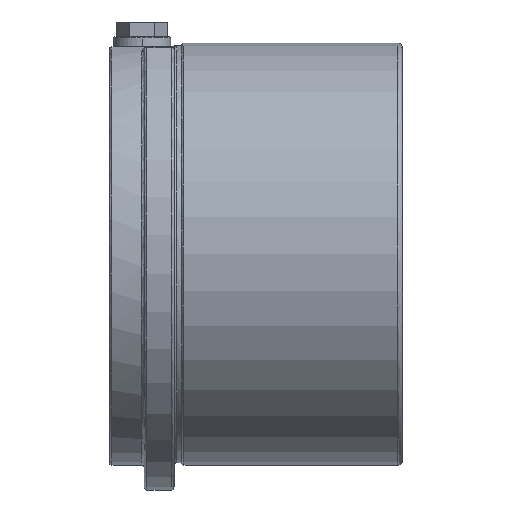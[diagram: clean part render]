
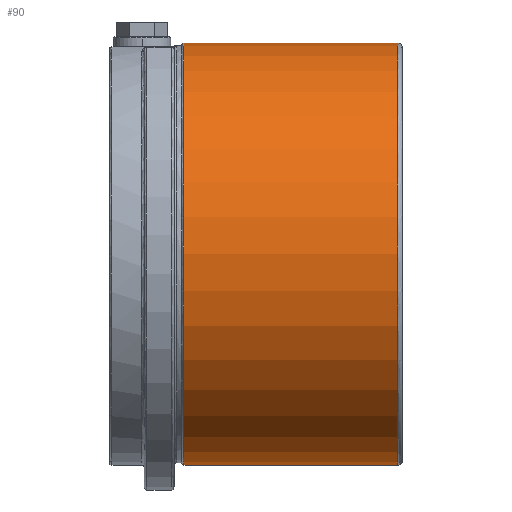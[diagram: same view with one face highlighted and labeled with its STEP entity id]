
A CAD part, left-side view. The second image highlights one B-rep face of the part: STEP entity #90.
In plain terms, the highlighted face is a revolution surface.
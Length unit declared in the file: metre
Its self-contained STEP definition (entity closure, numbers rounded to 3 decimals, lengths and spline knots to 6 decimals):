
#90 = ADVANCED_FACE( '', ( #192 ), #193, .F. );
#192 = FACE_OUTER_BOUND( '', #442, .T. );
#193 = SURFACE_OF_REVOLUTION( '', #443, #444 );
#442 = EDGE_LOOP( '', ( #4558, #4559, #4560, #4561 ) );
#443 = B_SPLINE_CURVE_WITH_KNOTS( '', 1, ( #4562, #4563 ), .UNSPECIFIED., .F., .F., ( 2, 2 ), ( -10000., 10000. ), .UNSPECIFIED. );
#444 = AXIS1_PLACEMENT( '', #4564, #4565 );
#4558 = ORIENTED_EDGE( '', *, *, #5241, .F. );
#4559 = ORIENTED_EDGE( '', *, *, #5242, .T. );
#4560 = ORIENTED_EDGE( '', *, *, #5237, .F. );
#4561 = ORIENTED_EDGE( '', *, *, #5243, .T. );
#4562 = CARTESIAN_POINT( '', ( 0., 10000.044, -0.0425 ) );
#4563 = CARTESIAN_POINT( '', ( 0., -9999.956, -0.0425 ) );
#4564 = CARTESIAN_POINT( '', ( 0., 0.0445, 0. ) );
#4565 = DIRECTION( '', ( 0., 1., 0. ) );
#5237 = EDGE_CURVE( '', #5458, #5457, #5465, .T. );
#5241 = EDGE_CURVE( '', #5470, #5471, #5472, .F. );
#5242 = EDGE_CURVE( '', #5470, #5457, #5473, .T. );
#5243 = EDGE_CURVE( '', #5458, #5471, #5474, .F. );
#5457 = VERTEX_POINT( '', #5933 );
#5458 = VERTEX_POINT( '', #5934 );
#5465 = CIRCLE( '', #5961, 0.0425 );
#5470 = VERTEX_POINT( '', #5968 );
#5471 = VERTEX_POINT( '', #5969 );
#5472 = CIRCLE( '', #5970, 0.0425 );
#5473 = LINE( '', #5971, #5972 );
#5474 = LINE( '', #5973, #5974 );
#5933 = CARTESIAN_POINT( '', ( 0., 0.001, -0.0425 ) );
#5934 = CARTESIAN_POINT( '', ( 0., 0.001, 0.0425 ) );
#5961 = AXIS2_PLACEMENT_3D( '', #7248, #7249, #7250 );
#5968 = CARTESIAN_POINT( '', ( 0., 0.044, -0.0425 ) );
#5969 = CARTESIAN_POINT( '', ( 0., 0.044, 0.0425 ) );
#5970 = AXIS2_PLACEMENT_3D( '', #7256, #7257, #7258 );
#5971 = CARTESIAN_POINT( '', ( 0., 0.044, -0.0425 ) );
#5972 = VECTOR( '', #7259, 1. );
#5973 = CARTESIAN_POINT( '', ( 0., 0.044, 0.0425 ) );
#5974 = VECTOR( '', #7260, 1. );
#7248 = CARTESIAN_POINT( '', ( 0., 0.001, 0. ) );
#7249 = DIRECTION( '', ( 0., -1., 0. ) );
#7250 = DIRECTION( '', ( 0., 0., -1. ) );
#7256 = CARTESIAN_POINT( '', ( 0., 0.044, 0. ) );
#7257 = DIRECTION( '', ( 0., -1., 0. ) );
#7258 = DIRECTION( '', ( 0., 0., -1. ) );
#7259 = DIRECTION( '', ( 0., -1., 0. ) );
#7260 = DIRECTION( '', ( 0., -1., 0. ) );
